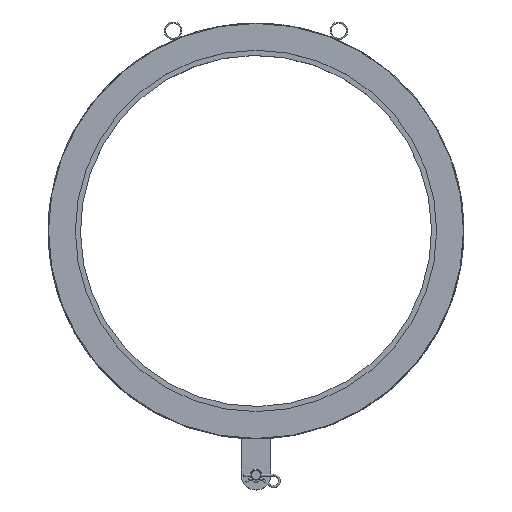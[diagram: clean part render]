
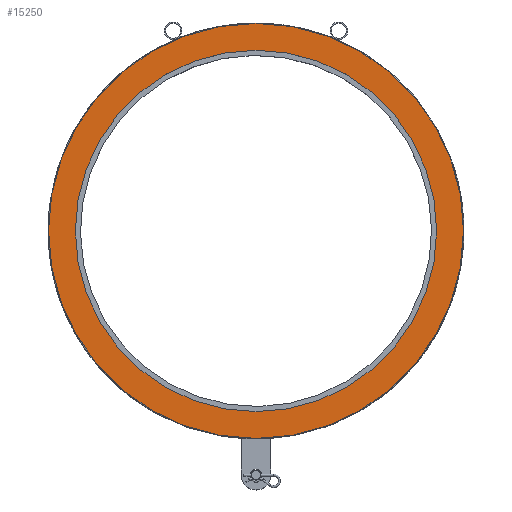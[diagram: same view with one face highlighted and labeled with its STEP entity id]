
A CAD part, top view. The second image highlights one B-rep face of the part: STEP entity #15250.
In plain terms, the highlighted planar face has unit normal (0, 0, 1).
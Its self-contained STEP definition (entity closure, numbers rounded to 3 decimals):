
#521=FACE_BOUND('',#3410,.T.);
#1663=PLANE('',#16070);
#2479=FACE_OUTER_BOUND('',#3409,.T.);
#3409=EDGE_LOOP('',(#13964));
#3410=EDGE_LOOP('',(#13965));
#5887=CIRCLE('',#16066,458.);
#5888=CIRCLE('',#16068,526.);
#7365=VERTEX_POINT('',#36297);
#7366=VERTEX_POINT('',#36301);
#9583=EDGE_CURVE('',#7365,#7365,#5887,.T.);
#9585=EDGE_CURVE('',#7366,#7366,#5888,.T.);
#13964=ORIENTED_EDGE('',*,*,#9585,.F.);
#13965=ORIENTED_EDGE('',*,*,#9583,.T.);
#15250=ADVANCED_FACE('',(#2479,#521),#1663,.T.);
#16066=AXIS2_PLACEMENT_3D('',#36298,#18641,#18642);
#16068=AXIS2_PLACEMENT_3D('',#36302,#18646,#18647);
#16070=AXIS2_PLACEMENT_3D('',#36305,#18651,#18652);
#18641=DIRECTION('center_axis',(0.,0.,
-1.));
#18642=DIRECTION('ref_axis',(-1.,0.,0.));
#18646=DIRECTION('center_axis',(0.,0.,
-1.));
#18647=DIRECTION('ref_axis',(-1.,0.,0.));
#18651=DIRECTION('center_axis',(0.,0.,
1.));
#18652=DIRECTION('ref_axis',(-1.,0.,0.));
#36297=CARTESIAN_POINT('',(458.,0.,140.));
#36298=CARTESIAN_POINT('Origin',(0.,0.,
140.));
#36301=CARTESIAN_POINT('',(526.,0.,140.));
#36302=CARTESIAN_POINT('Origin',(0.,0.,
140.));
#36305=CARTESIAN_POINT('Origin',(0.,0.,
140.));
